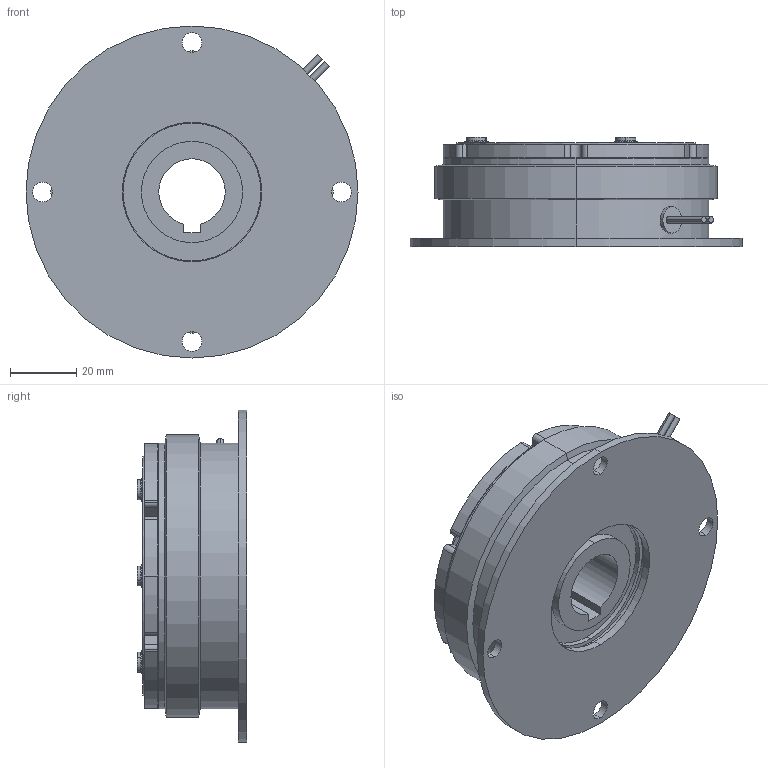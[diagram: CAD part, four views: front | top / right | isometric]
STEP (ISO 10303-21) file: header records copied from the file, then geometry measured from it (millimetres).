
FILE_DESCRIPTION (( 'STEP AP203' ), '1' );
FILE_NAME ('C-M10-F01-20.STEP', '2020-06-15T00:41:36', ( '' ), ( '' ), 'SwSTEP 2.0', 'SolidWorks 2015', '' );
FILE_SCHEMA (( 'CONFIG_CONTROL_DESIGN' ));
Length unit declared in the file: millimetre
Products named in the file (4): 5M10-21009-20; 5M10-41109; 5M10-11009; C-M10-F01-20
Assembly tree (3 placements, depth 2):
  C-M10-F01-20
    5M10-11009
    5M10-21009-20
    5M10-41109
Bounding box: 100 x 32.95 x 100 mm (x, y, z)
Volume: 137811.5 mm3; surface area: 52237.8 mm2
Topology: 3 solids, 3 shells, 236 faces, 553 edges, 349 vertices
Faces by surface type: cylinder 128, plane 62, torus 24, cone 22
Entity records: 7349 total; most frequent: DIRECTION 1367, CARTESIAN_POINT 1204, ORIENTED_EDGE 1094, AXIS2_PLACEMENT_3D 580, EDGE_CURVE 547, VERTEX_POINT 349, CIRCLE 338, EDGE_LOOP 288
